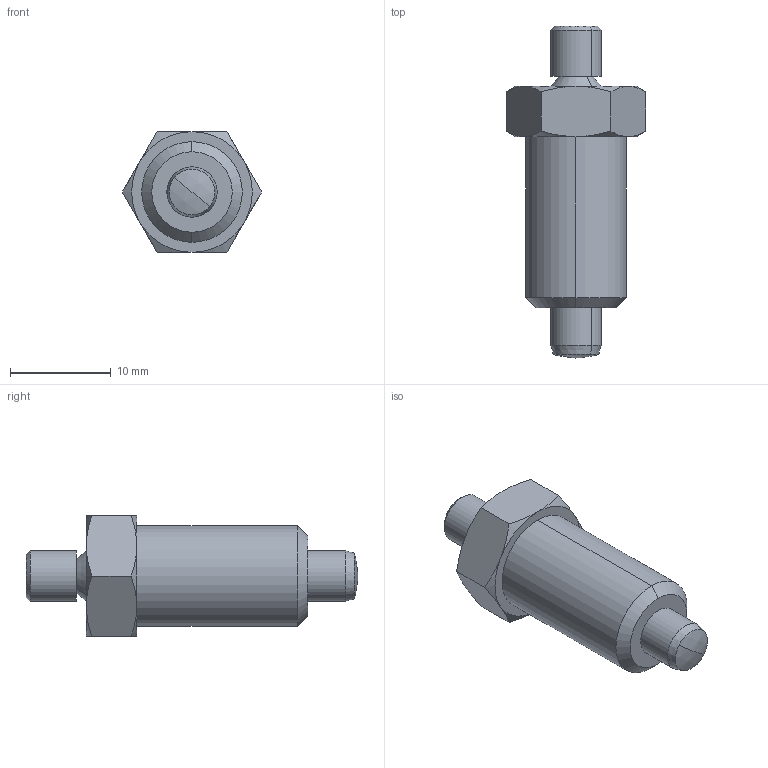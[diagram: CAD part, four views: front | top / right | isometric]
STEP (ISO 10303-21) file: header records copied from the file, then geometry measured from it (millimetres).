
FILE_DESCRIPTION (( 'STEP AP203' ), '1' );
FILE_NAME ('32700.W0425.step', '2011-03-28T12:01:20', ( 'Wixroyd' ), ( 'Wixroyd' ), 'SwSTEP 2.0', 'SolidWorks 2009', '' );
FILE_SCHEMA (( 'CONFIG_CONTROL_DESIGN' ));
Length unit declared in the file: millimetre
Products named in the file (4): Part1_3270.W425; 32700.W0425; Part2_3270.W425; Part4_3270.W425
Assembly tree (3 placements, depth 2):
  32700.W0425
    Part2_3270.W425
    Part4_3270.W425
    Part1_3270.W425
Bounding box: 13.86 x 33 x 12 mm (x, y, z)
Volume: 1833.1 mm3; surface area: 2050 mm2
Topology: 3 solids, 3 shells, 149 faces, 392 edges, 255 vertices
Faces by surface type: plane 107, cylinder 20, cone 20, sphere 2
Entity records: 5092 total; most frequent: CARTESIAN_POINT 922, DIRECTION 802, ORIENTED_EDGE 784, EDGE_CURVE 392, AXIS2_PLACEMENT_3D 279, VERTEX_POINT 255, VECTOR 244, LINE 244
